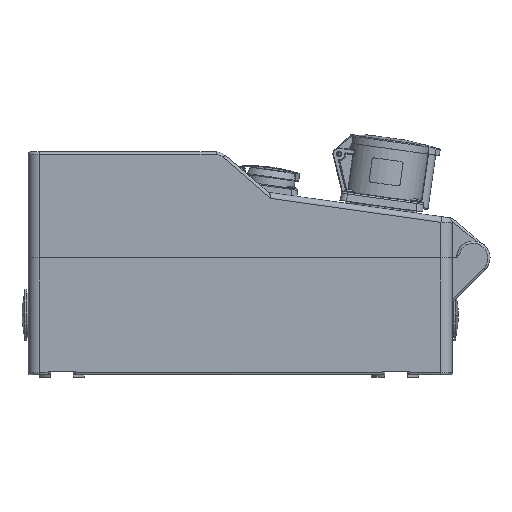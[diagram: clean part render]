
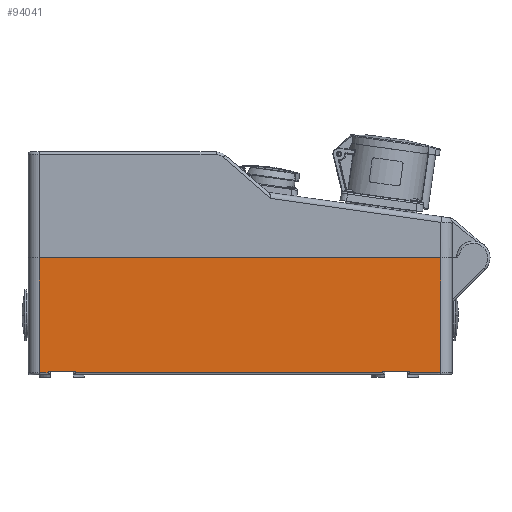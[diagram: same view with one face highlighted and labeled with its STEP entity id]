
A CAD part, left-side view. The second image highlights one B-rep face of the part: STEP entity #94041.
In plain terms, the highlighted planar face has unit normal (-1, 0, 0).
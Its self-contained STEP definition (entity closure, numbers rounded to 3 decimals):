
#13281=DIRECTION('',(0.,-1.,0.));
#13282=VECTOR('',#13281,360.);
#13283=CARTESIAN_POINT('',(-115.,180.,-1.01));
#13284=LINE('3964',#13283,#13282);
#14125=CARTESIAN_POINT('',(-115.,-180.,-104.01));
#14815=DIRECTION('',(0.,1.,0.));
#14816=VECTOR('',#14815,7.8);
#14817=CARTESIAN_POINT('',(-115.,172.2,-104.01));
#14818=LINE('4378',#14817,#14816);
#14819=DIRECTION('',(0.,0.,-1.));
#14820=VECTOR('',#14819,103.);
#14821=CARTESIAN_POINT('',(-115.,180.,-1.01));
#14822=LINE('4379',#14821,#14820);
#14823=DIRECTION('',(0.,0.,-1.));
#14824=VECTOR('',#14823,103.);
#14825=CARTESIAN_POINT('',(-115.,-180.,-1.01));
#14826=LINE('4409',#14825,#14824);
#14827=DIRECTION('',(0.,1.,0.));
#14828=VECTOR('',#14827,27.8);
#14829=CARTESIAN_POINT('',(-115.,-180.,-104.01));
#14830=LINE('4404',#14829,#14828);
#14831=DIRECTION('',(0.,0.,-1.));
#14832=VECTOR('',#14831,0.8);
#14833=CARTESIAN_POINT('',(-115.,-152.2,-103.21));
#14834=LINE('4356',#14833,#14832);
#14835=DIRECTION('',(0.,1.,0.));
#14836=VECTOR('',#14835,24.4);
#14837=CARTESIAN_POINT('',(-115.,-152.2,-103.21));
#14838=LINE('4163',#14837,#14836);
#14839=DIRECTION('',(0.,0.,-1.));
#14840=VECTOR('',#14839,0.8);
#14841=CARTESIAN_POINT('',(-115.,-127.8,-103.21));
#14842=LINE('4357',#14841,#14840);
#14843=DIRECTION('',(0.,1.,0.));
#14844=VECTOR('',#14843,275.6);
#14845=CARTESIAN_POINT('',(-115.,-127.8,-104.01));
#14846=LINE('4336',#14845,#14844);
#14847=DIRECTION('',(0.,0.,-1.));
#14848=VECTOR('',#14847,0.8);
#14849=CARTESIAN_POINT('',(-115.,147.8,-103.21));
#14850=LINE('4354',#14849,#14848);
#14851=DIRECTION('',(0.,-1.,0.));
#14852=VECTOR('',#14851,24.4);
#14853=CARTESIAN_POINT('',(-115.,172.2,-103.21));
#14854=LINE('4162',#14853,#14852);
#14855=DIRECTION('',(0.,0.,-1.));
#14856=VECTOR('',#14855,0.8);
#14857=CARTESIAN_POINT('',(-115.,172.2,-103.21));
#14858=LINE('4355',#14857,#14856);
#14864=CARTESIAN_POINT('',(-115.,172.2,-104.01));
#16052=CARTESIAN_POINT('',(-115.,-152.2,-104.01));
#60248=CARTESIAN_POINT('',(-115.,180.,-1.01));
#60250=VERTEX_POINT('',#60248);
#60255=CARTESIAN_POINT('',(-115.,-180.,-1.01));
#60257=VERTEX_POINT('',#60255);
#60589=CARTESIAN_POINT('',(-115.,172.2,-103.21));
#60590=CARTESIAN_POINT('',(-115.,147.8,-103.21));
#60591=VERTEX_POINT('',#60589);
#60592=VERTEX_POINT('',#60590);
#60593=CARTESIAN_POINT('',(-115.,-152.2,-103.21));
#60594=CARTESIAN_POINT('',(-115.,-127.8,-103.21));
#60595=VERTEX_POINT('',#60593);
#60596=VERTEX_POINT('',#60594);
#60747=CARTESIAN_POINT('',(-115.,-127.8,-104.01));
#60748=CARTESIAN_POINT('',(-115.,147.8,-104.01));
#60749=VERTEX_POINT('',#60747);
#60750=VERTEX_POINT('',#60748);
#60755=VERTEX_POINT('',#14864);
#60760=VERTEX_POINT('',#16052);
#60765=CARTESIAN_POINT('',(-115.,180.,-104.01));
#60766=VERTEX_POINT('',#60765);
#60775=VERTEX_POINT('',#14125);
#94014=CARTESIAN_POINT('',(-115.,190.,-106.01));
#94015=DIRECTION('',(-1.,0.,0.));
#94016=DIRECTION('',(0.,-1.,0.));
#94017=AXIS2_PLACEMENT_3D('',#94014,#94015,#94016);
#94018=PLANE('31',#94017);
#94020=ORIENTED_EDGE('4378',*,*,#94019,.T.);
#94021=ORIENTED_EDGE('4379',*,*,#93997,.F.);
#94022=ORIENTED_EDGE('3964',*,*,#91835,.T.);
#94024=ORIENTED_EDGE('4409',*,*,#94023,.T.);
#94025=ORIENTED_EDGE('4404',*,*,#92864,.T.);
#94027=ORIENTED_EDGE('4356',*,*,#94026,.F.);
#94028=ORIENTED_EDGE('4163',*,*,#93021,.T.);
#94030=ORIENTED_EDGE('4357',*,*,#94029,.T.);
#94032=ORIENTED_EDGE('4336',*,*,#94031,.T.);
#94034=ORIENTED_EDGE('4354',*,*,#94033,.F.);
#94036=ORIENTED_EDGE('4162',*,*,#94035,.F.);
#94038=ORIENTED_EDGE('4355',*,*,#94037,.T.);
#94039=EDGE_LOOP('31',(#94020,#94021,#94022,#94024,#94025,#94027,#94028,#94030,
#94032,#94034,#94036,#94038));
#94040=FACE_OUTER_BOUND('31',#94039,.F.);
#91835=EDGE_CURVE('3964',#60250,#60257,#13284,.T.);
#92864=EDGE_CURVE('4404',#60775,#60760,#14830,.T.);
#93021=EDGE_CURVE('4163',#60595,#60596,#14838,.T.);
#93997=EDGE_CURVE('4379',#60250,#60766,#14822,.T.);
#94019=EDGE_CURVE('4378',#60755,#60766,#14818,.T.);
#94023=EDGE_CURVE('4409',#60257,#60775,#14826,.T.);
#94026=EDGE_CURVE('4356',#60595,#60760,#14834,.T.);
#94029=EDGE_CURVE('4357',#60596,#60749,#14842,.T.);
#94031=EDGE_CURVE('4336',#60749,#60750,#14846,.T.);
#94033=EDGE_CURVE('4354',#60592,#60750,#14850,.T.);
#94035=EDGE_CURVE('4162',#60591,#60592,#14854,.T.);
#94037=EDGE_CURVE('4355',#60591,#60755,#14858,.T.);
#94041=ADVANCED_FACE('31',(#94040),#94018,.T.);
